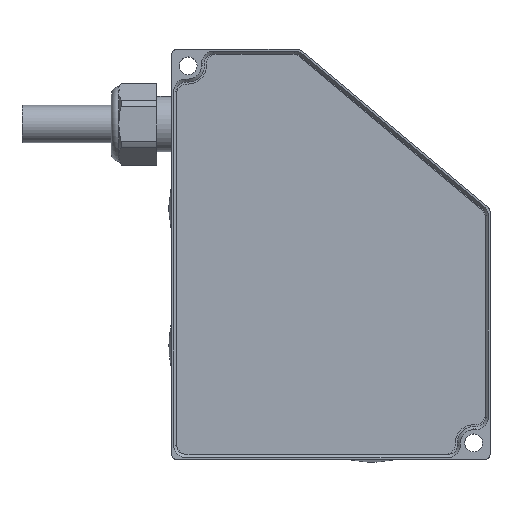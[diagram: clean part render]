
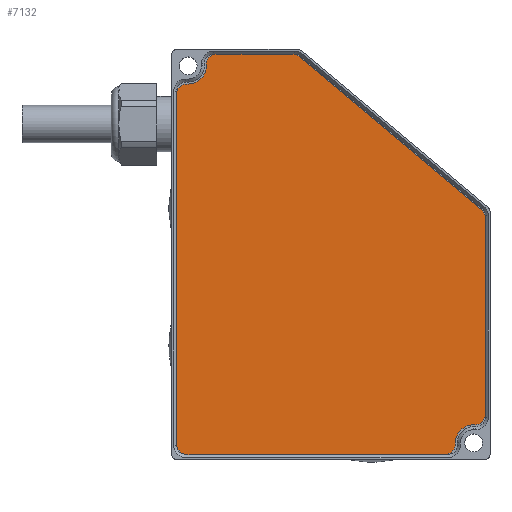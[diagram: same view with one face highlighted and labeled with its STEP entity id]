
A CAD part, top view. The second image highlights one B-rep face of the part: STEP entity #7132.
In plain terms, the highlighted planar face has unit normal (0, 0, 1).
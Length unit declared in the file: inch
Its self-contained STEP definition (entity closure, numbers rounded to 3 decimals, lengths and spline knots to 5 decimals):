
#6536=CARTESIAN_POINT('',(0.,0.07,0.05));
#6537=VERTEX_POINT('',#6536);
#6538=CARTESIAN_POINT('',(0.,2.416,0.05));
#6539=VERTEX_POINT('',#6538);
#6540=CARTESIAN_POINT('',(0.,0.07,0.05));
#6541=DIRECTION('',(0.0,1.0,0.0));
#6542=VECTOR('',#6541,2.346);
#6543=LINE('',#6540,#6542);
#6544=EDGE_CURVE('',#6537,#6539,#6543,.T.);
#6576=CARTESIAN_POINT('',(0.07,2.486,0.05));
#6577=VERTEX_POINT('',#6576);
#6578=CARTESIAN_POINT('',(0.07,2.416,0.05));
#6579=DIRECTION('',(0.0,0.0,-1.0));
#6580=DIRECTION('',(0.0,-1.0,0.0));
#6581=AXIS2_PLACEMENT_3D('',#6578,#6579,#6580);
#6582=CIRCLE('',#6581,0.07);
#6583=EDGE_CURVE('',#6539,#6577,#6582,.T.);
#6609=CARTESIAN_POINT('',(0.078,2.486,0.05));
#6610=VERTEX_POINT('',#6609);
#6611=CARTESIAN_POINT('',(0.07,2.486,0.05));
#6612=DIRECTION('',(1.0,0.0,0.0));
#6613=VECTOR('',#6612,0.008);
#6614=LINE('',#6611,#6613);
#6615=EDGE_CURVE('',#6577,#6610,#6614,.T.);
#6640=CARTESIAN_POINT('',(0.2,2.608,0.05));
#6641=VERTEX_POINT('',#6640);
#6642=CARTESIAN_POINT('',(0.078,2.608,0.05));
#6643=DIRECTION('',(0.0,0.0,1.0));
#6644=DIRECTION('',(0.0,-1.0,0.0));
#6645=AXIS2_PLACEMENT_3D('',#6642,#6643,#6644);
#6646=CIRCLE('',#6645,0.122);
#6647=EDGE_CURVE('',#6610,#6641,#6646,.T.);
#6673=CARTESIAN_POINT('',(0.2,2.616,0.05));
#6674=VERTEX_POINT('',#6673);
#6675=CARTESIAN_POINT('',(0.2,2.608,0.05));
#6676=DIRECTION('',(0.0,1.0,0.0));
#6677=VECTOR('',#6676,0.008);
#6678=LINE('',#6675,#6677);
#6679=EDGE_CURVE('',#6641,#6674,#6678,.T.);
#6704=CARTESIAN_POINT('',(0.27,2.686,0.05));
#6705=VERTEX_POINT('',#6704);
#6706=CARTESIAN_POINT('',(0.27,2.616,0.05));
#6707=DIRECTION('',(0.0,0.0,-1.0));
#6708=DIRECTION('',(0.0,-1.0,0.0));
#6709=AXIS2_PLACEMENT_3D('',#6706,#6707,#6708);
#6710=CIRCLE('',#6709,0.07);
#6711=EDGE_CURVE('',#6674,#6705,#6710,.T.);
#6737=CARTESIAN_POINT('',(0.77731,2.686,0.05));
#6738=VERTEX_POINT('',#6737);
#6739=CARTESIAN_POINT('',(0.27,2.686,0.05));
#6740=DIRECTION('',(1.0,0.0,0.0));
#6741=VECTOR('',#6740,0.50731);
#6742=LINE('',#6739,#6741);
#6743=EDGE_CURVE('',#6705,#6738,#6742,.T.);
#6768=CARTESIAN_POINT('',(0.82231,2.66962,0.05));
#6769=VERTEX_POINT('',#6768);
#6770=CARTESIAN_POINT('',(0.77731,2.616,0.05));
#6771=DIRECTION('',(0.0,0.0,-1.0));
#6772=DIRECTION('',(-0.643,-0.766,0.0));
#6773=AXIS2_PLACEMENT_3D('',#6770,#6771,#6772);
#6774=CIRCLE('',#6773,0.07);
#6775=EDGE_CURVE('',#6738,#6769,#6774,.T.);
#6801=CARTESIAN_POINT('',(2.046,1.64283,0.05));
#6802=VERTEX_POINT('',#6801);
#6803=CARTESIAN_POINT('',(0.82231,2.66962,0.05));
#6804=DIRECTION('',(0.766,-0.643,0.0));
#6805=VECTOR('',#6804,1.59741);
#6806=LINE('',#6803,#6805);
#6807=EDGE_CURVE('',#6769,#6802,#6806,.T.);
#6832=CARTESIAN_POINT('',(2.071,1.5892,0.05));
#6833=VERTEX_POINT('',#6832);
#6834=CARTESIAN_POINT('',(2.001,1.5892,0.05));
#6835=DIRECTION('',(0.0,0.0,-1.0));
#6836=DIRECTION('',(-1.0,0.0,0.0));
#6837=AXIS2_PLACEMENT_3D('',#6834,#6835,#6836);
#6838=CIRCLE('',#6837,0.07);
#6839=EDGE_CURVE('',#6802,#6833,#6838,.T.);
#6865=CARTESIAN_POINT('',(2.071,0.27,0.05));
#6866=VERTEX_POINT('',#6865);
#6867=CARTESIAN_POINT('',(2.071,1.5892,0.05));
#6868=DIRECTION('',(0.0,-1.0,0.0));
#6869=VECTOR('',#6868,1.3192);
#6870=LINE('',#6867,#6869);
#6871=EDGE_CURVE('',#6833,#6866,#6870,.T.);
#6896=CARTESIAN_POINT('',(2.001,0.2,0.05));
#6897=VERTEX_POINT('',#6896);
#6898=CARTESIAN_POINT('',(2.001,0.27,0.05));
#6899=DIRECTION('',(0.0,0.0,-1.0));
#6900=DIRECTION('',(0.0,1.0,0.0));
#6901=AXIS2_PLACEMENT_3D('',#6898,#6899,#6900);
#6902=CIRCLE('',#6901,0.07);
#6903=EDGE_CURVE('',#6866,#6897,#6902,.T.);
#6929=CARTESIAN_POINT('',(1.993,0.2,0.05));
#6930=VERTEX_POINT('',#6929);
#6931=CARTESIAN_POINT('',(2.001,0.2,0.05));
#6932=DIRECTION('',(-1.0,0.0,0.0));
#6933=VECTOR('',#6932,0.008);
#6934=LINE('',#6931,#6933);
#6935=EDGE_CURVE('',#6897,#6930,#6934,.T.);
#6960=CARTESIAN_POINT('',(1.871,0.078,0.05));
#6961=VERTEX_POINT('',#6960);
#6962=CARTESIAN_POINT('',(1.993,0.078,0.05));
#6963=DIRECTION('',(0.0,0.0,1.0));
#6964=DIRECTION('',(0.0,1.0,0.0));
#6965=AXIS2_PLACEMENT_3D('',#6962,#6963,#6964);
#6966=CIRCLE('',#6965,0.122);
#6967=EDGE_CURVE('',#6930,#6961,#6966,.T.);
#6993=CARTESIAN_POINT('',(1.871,0.07,0.05));
#6994=VERTEX_POINT('',#6993);
#6995=CARTESIAN_POINT('',(1.871,0.078,0.05));
#6996=DIRECTION('',(0.0,-1.0,0.0));
#6997=VECTOR('',#6996,0.008);
#6998=LINE('',#6995,#6997);
#6999=EDGE_CURVE('',#6961,#6994,#6998,.T.);
#7024=CARTESIAN_POINT('',(1.801,0.,0.05));
#7025=VERTEX_POINT('',#7024);
#7026=CARTESIAN_POINT('',(1.801,0.07,0.05));
#7027=DIRECTION('',(0.0,0.0,-1.0));
#7028=DIRECTION('',(0.0,1.0,0.0));
#7029=AXIS2_PLACEMENT_3D('',#7026,#7027,#7028);
#7030=CIRCLE('',#7029,0.07);
#7031=EDGE_CURVE('',#6994,#7025,#7030,.T.);
#7057=CARTESIAN_POINT('',(0.07,0.,0.05));
#7058=VERTEX_POINT('',#7057);
#7059=CARTESIAN_POINT('',(1.801,0.,0.05));
#7060=DIRECTION('',(-1.0,0.0,0.0));
#7061=VECTOR('',#7060,1.731);
#7062=LINE('',#7059,#7061);
#7063=EDGE_CURVE('',#7025,#7058,#7062,.T.);
#7088=CARTESIAN_POINT('',(0.07,0.07,0.05));
#7089=DIRECTION('',(0.0,0.0,-1.0));
#7090=DIRECTION('',(1.0,0.0,0.0));
#7091=AXIS2_PLACEMENT_3D('',#7088,#7089,#7090);
#7092=CIRCLE('',#7091,0.07);
#7093=EDGE_CURVE('',#7058,#6537,#7092,.T.);
#7107=CARTESIAN_POINT('',(0.92835,1.20459,0.05));
#7108=DIRECTION('',(0.0,0.0,1.0));
#7109=DIRECTION('',(1.0,0.0,0.0));
#7110=AXIS2_PLACEMENT_3D('',#7107,#7108,#7109);
#7111=PLANE('',#7110);
#7112=ORIENTED_EDGE('',*,*,#6544,.F.);
#7113=ORIENTED_EDGE('',*,*,#7093,.F.);
#7114=ORIENTED_EDGE('',*,*,#7063,.F.);
#7115=ORIENTED_EDGE('',*,*,#7031,.F.);
#7116=ORIENTED_EDGE('',*,*,#6999,.F.);
#7117=ORIENTED_EDGE('',*,*,#6967,.F.);
#7118=ORIENTED_EDGE('',*,*,#6935,.F.);
#7119=ORIENTED_EDGE('',*,*,#6903,.F.);
#7120=ORIENTED_EDGE('',*,*,#6871,.F.);
#7121=ORIENTED_EDGE('',*,*,#6839,.F.);
#7122=ORIENTED_EDGE('',*,*,#6807,.F.);
#7123=ORIENTED_EDGE('',*,*,#6775,.F.);
#7124=ORIENTED_EDGE('',*,*,#6743,.F.);
#7125=ORIENTED_EDGE('',*,*,#6711,.F.);
#7126=ORIENTED_EDGE('',*,*,#6679,.F.);
#7127=ORIENTED_EDGE('',*,*,#6647,.F.);
#7128=ORIENTED_EDGE('',*,*,#6615,.F.);
#7129=ORIENTED_EDGE('',*,*,#6583,.F.);
#7130=EDGE_LOOP('',(#7112,#7113,#7114,#7115,#7116,#7117,#7118,#7119,#7120,#7121,#7122,#7123,#7124,#7125,#7126,#7127,#7128,#7129));
#7131=FACE_OUTER_BOUND('',#7130,.T.);
#7132=ADVANCED_FACE('',(#7131),#7111,.T.);
